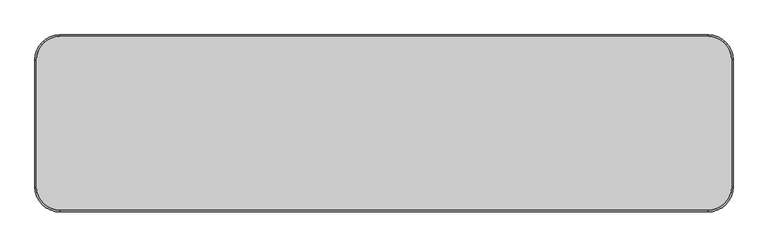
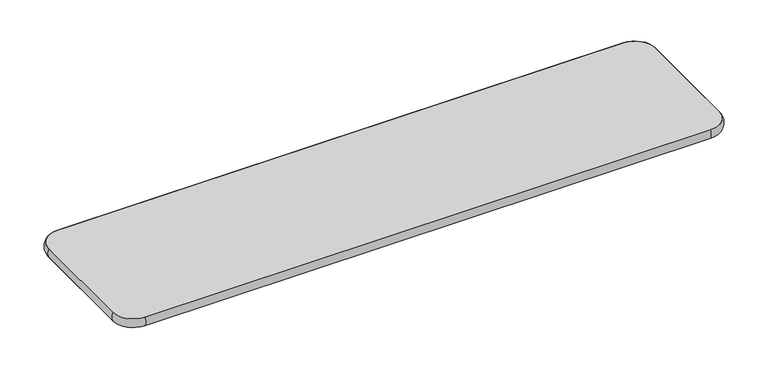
"""IFC4 building model written with IfcOpenShell, lengths in millimetres: furniture geometry, Banco para refeitório : Banco para refeitório 120x30cm cód 40469.5."""

from ifc_helpers import new_model, si_unit, point, frame, frame_2d, origin, place, context, project, spatial, polyline, circle_curve, ellipse_curve, trimmed, segment, composite_curve, outline, extrude, source, transform, mapped, element, save
from ifc_brep_helpers import plane_surface, cylinder_surface, revolved_surface, advanced_brep


def furniture_3e3c8377(model_context):
    return source(origin(), model_context, "Body", "SolidModel", [
        advanced_brep(
        [(600.0, -110.0, 460.0), (560.0, -150.0, 460.0), (560.0, -150.0, 442.0), (600.0, -110.0, 442.0), (600.0, 110.0, 442.0), (600.0, 110.0, 460.0), (560.0, 150.0, 460.0), (560.0, 150.0, 442.0), (-560.0, 150.0, 442.0), (-560.0, 150.0, 460.0), (-600.0, 110.0, 460.0), (-600.0, 110.0, 442.0), (-600.0, -110.0, 442.0), (-600.0, -110.0, 460.0), (-560.0, -150.0, 460.0), (-560.0, -150.0, 442.0)],
        [
            (0, 1, circle_curve(frame((560.0, -110.0, 460.0), z_axis=(0.0, 0.0, -1.0), x_axis=(0.0, -1.0, 0.0)), 40.0)),
            (1, 2, circle_curve(frame((560.0, -136.6032084, 451.0), z_axis=(1.0, 0.0, 0.0), x_axis=(0.0, 1.0, 0.0)), 16.1392077)),
            (2, 3, circle_curve(frame((560.0, -110.0, 442.0), z_axis=(0.0, 0.0, 1.0), x_axis=(0.0, -1.0, 0.0)), 40.0)),
            (3, 0, circle_curve(frame((586.6032084, -110.0, 451.0), z_axis=(0.0, -1.0, 0.0), x_axis=(-1.0, 0.0, 0.0)), 16.1392077)),
            (2, 1),
            (0, 3),
            (3, 4),
            (4, 5, circle_curve(frame((586.6032084, 110.0, 451.0), z_axis=(0.0, -1.0, 0.0), x_axis=(-1.0, 0.0, 0.0)), 16.1392077)),
            (5, 0),
            (5, 4),
            (6, 5, circle_curve(frame((560.0, 110.0, 460.0), z_axis=(0.0, 0.0, -1.0), x_axis=(1.0, 0.0, 0.0)), 40.0)),
            (4, 7, circle_curve(frame((560.0, 110.0, 442.0), z_axis=(0.0, 0.0, 1.0), x_axis=(1.0, 0.0, 0.0)), 40.0)),
            (7, 6, circle_curve(frame((560.0, 136.6032084, 451.0), z_axis=(1.0, 0.0, 0.0), x_axis=(0.0, -1.0, 0.0)), 16.1392077)),
            (6, 7),
            (7, 8),
            (8, 9, circle_curve(frame((-560.0, 136.6032084, 451.0), z_axis=(1.0, 0.0, 0.0), x_axis=(0.0, -1.0, 0.0)), 16.1392077)),
            (9, 6),
            (9, 8),
            (10, 9, circle_curve(frame((-560.0, 110.0, 460.0), z_axis=(0.0, 0.0, -1.0), x_axis=(0.0, 1.0, 0.0)), 40.0)),
            (8, 11, circle_curve(frame((-560.0, 110.0, 442.0), z_axis=(0.0, 0.0, 1.0), x_axis=(0.0, 1.0, 0.0)), 40.0)),
            (11, 10, circle_curve(frame((-586.6032084, 110.0, 451.0), z_axis=(0.0, 1.0, 0.0), x_axis=(1.0, 0.0, 0.0)), 16.1392077)),
            (10, 11),
            (11, 12),
            (12, 13, circle_curve(frame((-586.6032084, -110.0, 451.0), z_axis=(0.0, 1.0, 0.0), x_axis=(1.0, 0.0, 0.0)), 16.1392077)),
            (13, 10),
            (13, 12),
            (14, 13, circle_curve(frame((-560.0, -110.0, 460.0), z_axis=(0.0, 0.0, -1.0), x_axis=(-1.0, 0.0, 0.0)), 40.0)),
            (12, 15, circle_curve(frame((-560.0, -110.0, 442.0), z_axis=(0.0, 0.0, 1.0), x_axis=(-1.0, 0.0, 0.0)), 40.0)),
            (15, 14, circle_curve(frame((-560.0, -136.6032084, 451.0), z_axis=(-1.0, 0.0, 0.0), x_axis=(0.0, 1.0, 0.0)), 16.1392077)),
            (14, 15),
            (15, 2),
            (1, 14),
        ],
        [
            revolved_surface(trimmed(ellipse_curve(frame((560.0, -136.6032084, 451.0), z_axis=(-1.0, 0.0, 0.0), x_axis=(0.0, 1.0, 0.0)), 16.1392077, 16.1392077), [point((560.0, -150.0, 442.0))], [point((560.0, -150.0, 460.0))], True, "CARTESIAN"), (560.0, -110.0, 460.0), (0.0, 0.0, 1.0)),
            revolved_surface(polyline([(560.0, -150.0, 460.0), (560.0, -150.0, 442.0)]), (560.0, -110.0, 460.0), (0.0, 0.0, 1.0)),
            cylinder_surface(frame((586.6032084, -110.0, 451.0), z_axis=(0.0, -1.0, 0.0), x_axis=(-1.0, 0.0, 0.0)), 16.1392077),
            plane_surface(frame((600.0, -110.0, 460.0), z_axis=(-1.0, 0.0, 0.0), x_axis=(0.0, 1.0, 0.0))),
            revolved_surface(trimmed(ellipse_curve(frame((586.6032084, 110.0, 451.0), z_axis=(0.0, -1.0, 0.0), x_axis=(-1.0, 0.0, 0.0)), 16.1392077, 16.1392077), [point((600.0, 110.0, 442.0))], [point((600.0, 110.0, 460.0))], True, "CARTESIAN"), (560.0, 110.0, 460.0), (0.0, 0.0, 1.0)),
            revolved_surface(polyline([(600.0, 110.0, 460.0), (600.0, 110.0, 442.0)]), (560.0, 110.0, 460.0), (0.0, 0.0, 1.0)),
            cylinder_surface(frame((560.0, 136.6032084, 451.0), z_axis=(1.0, 0.0, 0.0), x_axis=(0.0, -1.0, 0.0)), 16.1392077),
            plane_surface(frame((560.0, 150.0, 460.0), z_axis=(0.0, -1.0, 0.0), x_axis=(-1.0, 0.0, 0.0))),
            revolved_surface(trimmed(ellipse_curve(frame((-560.0, 136.6032084, 451.0), z_axis=(1.0, 0.0, 0.0), x_axis=(0.0, -1.0, 0.0)), 16.1392077, 16.1392077), [point((-560.0, 150.0, 442.0))], [point((-560.0, 150.0, 460.0))], True, "CARTESIAN"), (-560.0, 110.0, 460.0), (0.0, 0.0, 1.0)),
            revolved_surface(polyline([(-560.0, 150.0, 460.0), (-560.0, 150.0, 442.0)]), (-560.0, 110.0, 460.0), (0.0, 0.0, 1.0)),
            cylinder_surface(frame((-586.6032084, 110.0, 451.0), z_axis=(0.0, 1.0, 0.0), x_axis=(1.0, 0.0, 0.0)), 16.1392077),
            plane_surface(frame((-600.0, 110.0, 460.0), z_axis=(1.0, 0.0, 0.0), x_axis=(0.0, -1.0, 0.0))),
            revolved_surface(trimmed(ellipse_curve(frame((-586.6032084, -110.0, 451.0), z_axis=(0.0, 1.0, 0.0), x_axis=(1.0, 0.0, 0.0)), 16.1392077, 16.1392077), [point((-600.0, -110.0, 442.0))], [point((-600.0, -110.0, 460.0))], True, "CARTESIAN"), (-560.0, -110.0, 460.0), (0.0, 0.0, 1.0)),
            revolved_surface(polyline([(-600.0, -110.0, 460.0), (-600.0, -110.0, 442.0)]), (-560.0, -110.0, 460.0), (0.0, 0.0, 1.0)),
            cylinder_surface(frame((-560.0, -136.6032084, 451.0), z_axis=(-1.0, 0.0, 0.0), x_axis=(0.0, 1.0, 0.0)), 16.1392077),
            plane_surface(frame((-560.0, -150.0, 460.0), z_axis=(0.0, 1.0, 0.0), x_axis=(1.0, 0.0, 0.0))),
        ],
        [
            (0, [[1, 2, 3, 4]]),
            (1, [[-3, 5, -1, 6]]),
            (2, [[-4, 7, 8, 9]]),
            (3, [[-6, -9, 10, -7]]),
            (4, [[11, -8, 12, 13]]),
            (5, [[-12, -10, -11, 14]]),
            (6, [[-13, 15, 16, 17]]),
            (7, [[-14, -17, 18, -15]]),
            (8, [[19, -16, 20, 21]]),
            (9, [[-20, -18, -19, 22]]),
            (10, [[-21, 23, 24, 25]]),
            (11, [[-22, -25, 26, -23]]),
            (12, [[27, -24, 28, 29]]),
            (13, [[-28, -26, -27, 30]]),
            (14, [[-29, 31, -2, 32]]),
            (15, [[-30, -32, -5, -31]]),
        ],
    ),
        extrude(outline(composite_curve([segment(trimmed(circle_curve(frame_2d((560.0, 110.0)), 40.0), [point((560.0, 150.0))], [point((600.0, 110.0))], False, "CARTESIAN"), True, "CONTINUOUS"), segment(polyline([(600.0, 110.0), (600.0, -110.0)]), True, "CONTINUOUS"), segment(trimmed(circle_curve(frame_2d((560.0, -110.0)), 40.0), [point((600.0, -110.0))], [point((560.0, -150.0))], False, "CARTESIAN"), True, "CONTINUOUS"), segment(polyline([(560.0, -150.0), (-560.0, -150.0)]), True, "CONTINUOUS"), segment(trimmed(circle_curve(frame_2d((-560.0, -110.0)), 40.0), [point((-560.0, -150.0))], [point((-600.0, -110.0))], False, "CARTESIAN"), True, "CONTINUOUS"), segment(polyline([(-600.0, -110.0), (-600.0, 110.0)]), True, "CONTINUOUS"), segment(trimmed(circle_curve(frame_2d((-560.0, 110.0)), 40.0), [point((-600.0, 110.0))], [point((-560.0, 150.0))], False, "CARTESIAN"), True, "CONTINUOUS"), segment(polyline([(-560.0, 150.0), (560.0, 150.0)]), True, "CONTINUOUS")], self_intersect=False)), frame((0.0, 0.0, 442.0), z_axis=(0.0, 0.0, 1.0), x_axis=(1.0, 0.0, 0.0)), (0.0, 0.0, 1.0), 18.0),
    ])


if __name__ == "__main__":
    model = new_model("IFC4")
    model_context = context("Model", 3, world=origin())
    ifc_project = project(units=[si_unit("LENGTHUNIT", "METRE", prefix="MILLI")], contexts=[model_context])
    site = spatial("IfcSite", under=ifc_project)
    building = spatial("IfcBuilding", under=site)
    placement = place(None, origin())
    furniture_shape = furniture_3e3c8377(model_context)
    element("IfcFurniture", 1, ObjectType="Banco para refeitório : Banco para refeitório 120x30cm cód 40469.5", at=placement, inside=building, context=model_context, shape_type="MappedRepresentation", body=[
        mapped(furniture_shape, transform((0.0, 0.0, 0.0), x_axis=(1.0, 0.0, 0.0), y_axis=(0.0, 1.0, 0.0), z_axis=(0.0, 0.0, 1.0))),
    ])
    save(model, "model.ifc")
